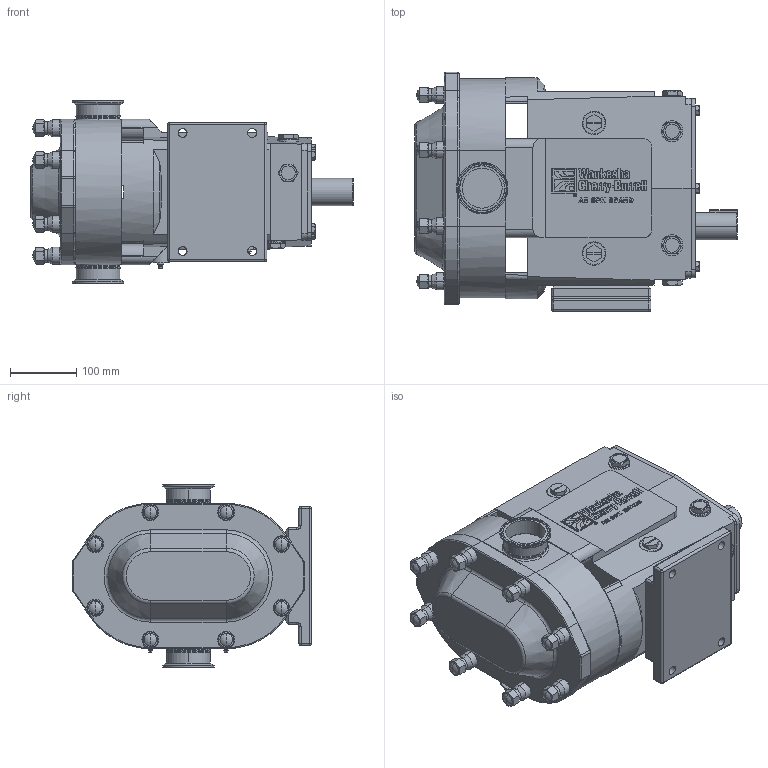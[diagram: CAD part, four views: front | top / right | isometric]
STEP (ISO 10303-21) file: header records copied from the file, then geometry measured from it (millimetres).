
FILE_DESCRIPTION (( 'STEP AP203' ), '1' );
FILE_NAME ('Joined_060_U2_Lower shaft.STEP', '2008-03-06T11:45:47', ( '' ), ( '' ), 'SwSTEP 2.0', 'SolidWorks 2006233', '' );
FILE_SCHEMA (( 'CONFIG_CONTROL_DESIGN' ));
Length unit declared in the file: inch
Products named in the file (1): Joined_060_U2_Lower shaft
Bounding box: 485.96 x 360.3 x 274.17 mm (x, y, z)
Volume: 20345324.7 mm3; surface area: 763412.9 mm2
Topology: 1 solids, 23 shells, 1551 faces, 3823 edges, 2392 vertices
Faces by surface type: plane 744, cylinder 311, cone 293, bspline 109, torus 70, sphere 24
Entity records: 48169 total; most frequent: CARTESIAN_POINT 12570, ORIENTED_EDGE 7510, DIRECTION 7010, EDGE_CURVE 3755, AXIS2_PLACEMENT_3D 2424, VERTEX_POINT 2392, VECTOR 2162, LINE 2162
